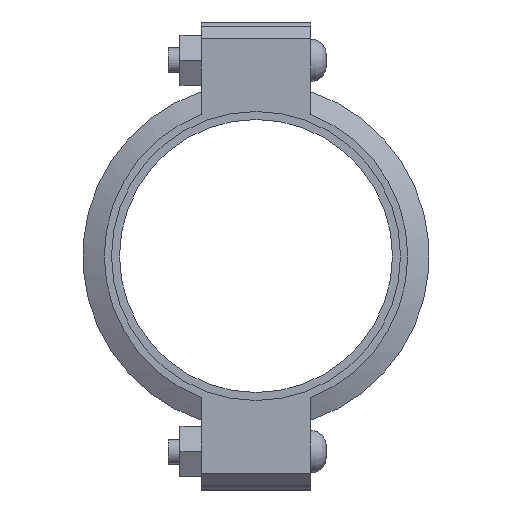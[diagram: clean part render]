
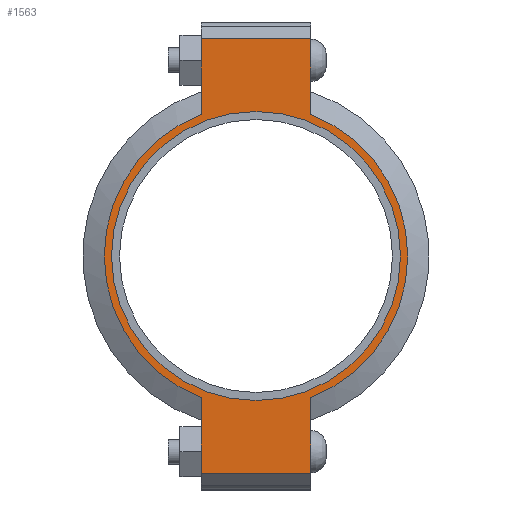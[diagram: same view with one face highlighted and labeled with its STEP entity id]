
A CAD part, left-side view. The second image highlights one B-rep face of the part: STEP entity #1563.
In plain terms, the highlighted planar face has unit normal (-1, 0, 0) as drawn and (0, 0, 1) by its records, which use the part's own axes.
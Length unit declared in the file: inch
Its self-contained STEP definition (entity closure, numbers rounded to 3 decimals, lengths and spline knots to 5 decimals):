
#186=LINE('',#2687,#279);
#194=LINE('',#2723,#287);
#201=LINE('',#2744,#294);
#210=LINE('',#2776,#303);
#211=LINE('',#2780,#304);
#212=LINE('',#2782,#305);
#279=VECTOR('',#2183,0.3937);
#287=VECTOR('',#2199,0.3937);
#294=VECTOR('',#2218,0.3937);
#303=VECTOR('',#2243,0.3937);
#304=VECTOR('',#2248,0.3937);
#305=VECTOR('',#2249,0.3937);
#361=FACE_BOUND('',#539,.T.);
#433=FACE_OUTER_BOUND('',#538,.T.);
#538=EDGE_LOOP('',(#1303,#1304,#1305,#1306,#1307,#1308,#1309,#1310));
#539=EDGE_LOOP('',(#1311));
#611=CIRCLE('',#1745,4.3125);
#637=CIRCLE('',#1804,4.53);
#638=CIRCLE('',#1805,4.53);
#703=VERTEX_POINT('',#2503);
#746=VERTEX_POINT('',#2684);
#747=VERTEX_POINT('',#2686);
#758=VERTEX_POINT('',#2718);
#759=VERTEX_POINT('',#2722);
#766=VERTEX_POINT('',#2741);
#767=VERTEX_POINT('',#2743);
#777=VERTEX_POINT('',#2779);
#778=VERTEX_POINT('',#2781);
#859=EDGE_CURVE('',#703,#703,#611,.T.);
#920=EDGE_CURVE('',#747,#746,#186,.T.);
#934=EDGE_CURVE('',#759,#758,#194,.T.);
#944=EDGE_CURVE('',#767,#766,#201,.T.);
#959=EDGE_CURVE('',#759,#746,#210,.T.);
#960=EDGE_CURVE('',#758,#767,#637,.T.);
#961=EDGE_CURVE('',#777,#766,#211,.T.);
#962=EDGE_CURVE('',#777,#778,#212,.T.);
#963=EDGE_CURVE('',#778,#747,#638,.T.);
#1303=ORIENTED_EDGE('',*,*,#959,.F.);
#1304=ORIENTED_EDGE('',*,*,#934,.T.);
#1305=ORIENTED_EDGE('',*,*,#960,.T.);
#1306=ORIENTED_EDGE('',*,*,#944,.T.);
#1307=ORIENTED_EDGE('',*,*,#961,.F.);
#1308=ORIENTED_EDGE('',*,*,#962,.T.);
#1309=ORIENTED_EDGE('',*,*,#963,.T.);
#1310=ORIENTED_EDGE('',*,*,#920,.T.);
#1311=ORIENTED_EDGE('',*,*,#859,.T.);
#1404=PLANE('',#1803);
#1563=ADVANCED_FACE('',(#433,#361),#1404,.T.);
#1745=AXIS2_PLACEMENT_3D('',#2505,#2059,#2060);
#1803=AXIS2_PLACEMENT_3D('',#2777,#2244,#2245);
#1804=AXIS2_PLACEMENT_3D('',#2778,#2246,#2247);
#1805=AXIS2_PLACEMENT_3D('',#2783,#2250,#2251);
#2059=DIRECTION('center_axis',(0.,0.,-1.));
#2060=DIRECTION('ref_axis',(-1.,0.,0.));
#2183=DIRECTION('',(-1.,0.,0.));
#2199=DIRECTION('',(1.,0.,0.));
#2218=DIRECTION('',(1.,0.,0.));
#2243=DIRECTION('',(0.,1.,0.));
#2244=DIRECTION('center_axis',(0.,0.,1.));
#2245=DIRECTION('ref_axis',(1.,0.,0.));
#2246=DIRECTION('center_axis',(0.,0.,1.));
#2247=DIRECTION('ref_axis',(-1.,0.,0.));
#2248=DIRECTION('',(0.,-1.,0.));
#2249=DIRECTION('',(-1.,0.,0.));
#2250=DIRECTION('center_axis',(0.,0.,1.));
#2251=DIRECTION('ref_axis',(-1.,0.,0.));
#2503=CARTESIAN_POINT('',(4.3125,0.,1.16));
#2505=CARTESIAN_POINT('Origin',(0.,0.,1.16));
#2684=CARTESIAN_POINT('',(-6.485,1.63,1.16));
#2686=CARTESIAN_POINT('',(-4.22658,1.63,1.16));
#2687=CARTESIAN_POINT('',(-6.985,1.63,1.16));
#2718=CARTESIAN_POINT('',(-4.22658,-1.63,1.16));
#2722=CARTESIAN_POINT('',(-6.485,-1.63,1.16));
#2723=CARTESIAN_POINT('',(6.985,-1.63,1.16));
#2741=CARTESIAN_POINT('',(6.485,-1.63,1.16));
#2743=CARTESIAN_POINT('',(4.22658,-1.63,1.16));
#2744=CARTESIAN_POINT('',(6.985,-1.63,1.16));
#2776=CARTESIAN_POINT('',(-6.485,0.815,1.16));
#2777=CARTESIAN_POINT('Origin',(0.,0.,
1.16));
#2778=CARTESIAN_POINT('Origin',(0.,0.,1.16));
#2779=CARTESIAN_POINT('',(6.485,1.63,1.16));
#2780=CARTESIAN_POINT('',(6.485,-0.815,1.16));
#2781=CARTESIAN_POINT('',(4.22658,1.63,1.16));
#2782=CARTESIAN_POINT('',(-6.985,1.63,1.16));
#2783=CARTESIAN_POINT('Origin',(0.,0.,1.16));
